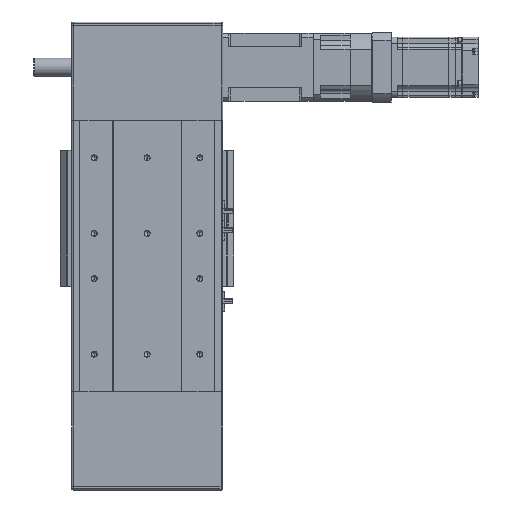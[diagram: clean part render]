
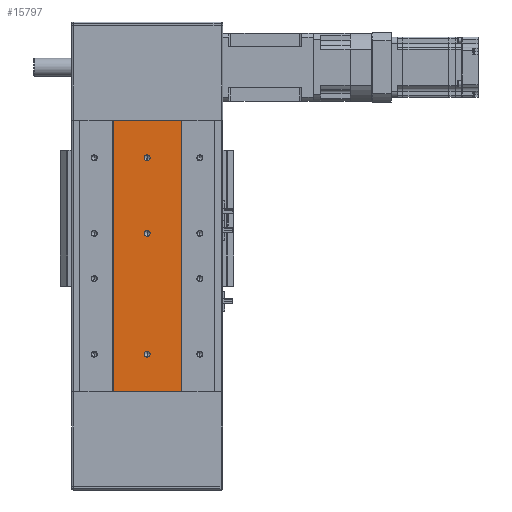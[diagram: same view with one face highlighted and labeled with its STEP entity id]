
A CAD part, front view. The second image highlights one B-rep face of the part: STEP entity #15797.
In plain terms, the highlighted planar face has unit normal (0, -1, 0).
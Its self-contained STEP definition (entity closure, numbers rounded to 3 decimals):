
#2208 = CARTESIAN_POINT ( 'NONE',  ( 45., -67., 180. ) ) ;
#2215 = DIRECTION ( 'NONE',  ( 0., 0., -1. ) ) ;
#2323 = DIRECTION ( 'NONE',  ( 0., 0., -1. ) ) ;
#2328 = DIRECTION ( 'NONE',  ( 0., -1., 0. ) ) ;
#2346 = CARTESIAN_POINT ( 'NONE',  ( 0., -67., 130. ) ) ;
#2357 = DIRECTION ( 'NONE',  ( 0., -1., 0. ) ) ;
#2363 = DIRECTION ( 'NONE',  ( 0., -1., 0. ) ) ;
#2372 = DIRECTION ( 'NONE',  ( 0., 0., -1. ) ) ;
#2396 = DIRECTION ( 'NONE',  ( 0., 0., -1. ) ) ;
#2408 = CARTESIAN_POINT ( 'NONE',  ( 0., -67., 30. ) ) ;
#2418 = CARTESIAN_POINT ( 'NONE',  ( 0., -67., -130. ) ) ;
#2622 = CARTESIAN_POINT ( 'NONE',  ( -45., -67., 180. ) ) ;
#2633 = DIRECTION ( 'NONE',  ( 0., 0., -1. ) ) ;
#2678 = CARTESIAN_POINT ( 'NONE',  ( 45., -67., -180. ) ) ;
#2684 = DIRECTION ( 'NONE',  ( 1., 0., 0. ) ) ;
#3518 = DIRECTION ( 'NONE',  ( 0., -1., 0. ) ) ;
#3522 = DIRECTION ( 'NONE',  ( 0., 0., -1. ) ) ;
#3533 = CARTESIAN_POINT ( 'NONE',  ( 0., -67., -130. ) ) ;
#3760 = CARTESIAN_POINT ( 'NONE',  ( 0., -67., 180. ) ) ;
#3844 = DIRECTION ( 'NONE',  ( 1., 0., 0. ) ) ;
#14953 = AXIS2_PLACEMENT_3D ( 'NONE', #2408, #2363, #2396 ) ;
#14975 = AXIS2_PLACEMENT_3D ( 'NONE', #2346, #2328, #2323 ) ;
#15009 = AXIS2_PLACEMENT_3D ( 'NONE', #2418, #2357, #2372 ) ;
#15797 = ADVANCED_FACE ( 'NONE', ( #58724, #58737, #58689, #58674 ), #24368, .F. ) ;
#19023 = CARTESIAN_POINT ( 'NONE',  ( 45., -67., 180. ) ) ;
#19128 = CARTESIAN_POINT ( 'NONE',  ( 45., -67., -180. ) ) ;
#19197 = CARTESIAN_POINT ( 'NONE',  ( -45., -67., -180. ) ) ;
#19666 = DIRECTION ( 'NONE',  ( 0., -1., 0. ) ) ;
#19668 = DIRECTION ( 'NONE',  ( 0., -1., 0. ) ) ;
#19696 = DIRECTION ( 'NONE',  ( 0., 0., -1. ) ) ;
#19710 = DIRECTION ( 'NONE',  ( 0., 0., -1. ) ) ;
#19726 = CARTESIAN_POINT ( 'NONE',  ( 0., -67., 130. ) ) ;
#19748 = CARTESIAN_POINT ( 'NONE',  ( 0., -67., 30. ) ) ;
#19797 = CARTESIAN_POINT ( 'NONE',  ( -45., -67., 180. ) ) ;
#20233 = CARTESIAN_POINT ( 'NONE',  ( 0., -67., 134. ) ) ;
#20235 = CARTESIAN_POINT ( 'NONE',  ( 0., -67., 26. ) ) ;
#20236 = CARTESIAN_POINT ( 'NONE',  ( 0., -67., 126. ) ) ;
#20274 = CARTESIAN_POINT ( 'NONE',  ( 0., -67., -126. ) ) ;
#20326 = CARTESIAN_POINT ( 'NONE',  ( 0., -67., 34. ) ) ;
#20361 = CARTESIAN_POINT ( 'NONE',  ( 0., -67., -134. ) ) ;
#20635 = VERTEX_POINT ( 'NONE', #20235 ) ;
#20650 = VERTEX_POINT ( 'NONE', #20233 ) ;
#20654 = VERTEX_POINT ( 'NONE', #20274 ) ;
#20677 = VERTEX_POINT ( 'NONE', #20326 ) ;
#20680 = VERTEX_POINT ( 'NONE', #20236 ) ;
#20699 = VERTEX_POINT ( 'NONE', #20361 ) ;
#20810 = VERTEX_POINT ( 'NONE', #19797 ) ;
#20949 = VERTEX_POINT ( 'NONE', #19023 ) ;
#21249 = VERTEX_POINT ( 'NONE', #19128 ) ;
#21299 = VERTEX_POINT ( 'NONE', #19197 ) ;
#21593 = CIRCLE ( 'NONE', #51987, 4. ) ;
#21606 = CIRCLE ( 'NONE', #51929, 4. ) ;
#21694 = CIRCLE ( 'NONE', #51942, 4. ) ;
#24349 = CARTESIAN_POINT ( 'NONE',  ( 45., -67., 180. ) ) ;
#24368 = PLANE ( 'NONE',  #50593 ) ;
#24377 = DIRECTION ( 'NONE',  ( 0., 0., 1. ) ) ;
#24381 = DIRECTION ( 'NONE',  ( 0., 1., 0. ) ) ;
#26361 = EDGE_CURVE ( 'NONE', #20650, #20680, #21593, .T. ) ;
#26369 = EDGE_CURVE ( 'NONE', #20677, #20635, #21606, .T. ) ;
#26393 = EDGE_CURVE ( 'NONE', #20654, #20699, #21694, .T. ) ;
#26511 = EDGE_CURVE ( 'NONE', #20810, #20949, #59469, .T. ) ;
#33818 = ORIENTED_EDGE ( 'NONE', *, *, #26511, .F. ) ;
#33838 = ORIENTED_EDGE ( 'NONE', *, *, #65601, .F. ) ;
#33864 = ORIENTED_EDGE ( 'NONE', *, *, #65192, .T. ) ;
#33872 = ORIENTED_EDGE ( 'NONE', *, *, #65576, .F. ) ;
#33890 = ORIENTED_EDGE ( 'NONE', *, *, #65761, .T. ) ;
#33908 = ORIENTED_EDGE ( 'NONE', *, *, #65456, .F. ) ;
#33910 = ORIENTED_EDGE ( 'NONE', *, *, #26369, .F. ) ;
#33926 = ORIENTED_EDGE ( 'NONE', *, *, #26361, .F. ) ;
#33980 = ORIENTED_EDGE ( 'NONE', *, *, #26393, .F. ) ;
#33988 = ORIENTED_EDGE ( 'NONE', *, *, #65529, .F. ) ;
#50593 = AXIS2_PLACEMENT_3D ( 'NONE', #24349, #24381, #24377 ) ;
#51929 = AXIS2_PLACEMENT_3D ( 'NONE', #19748, #19668, #19696 ) ;
#51942 = AXIS2_PLACEMENT_3D ( 'NONE', #3533, #3518, #3522 ) ;
#51987 = AXIS2_PLACEMENT_3D ( 'NONE', #19726, #19666, #19710 ) ;
#53024 = EDGE_LOOP ( 'NONE', ( #33838, #33910 ) ) ;
#53059 = EDGE_LOOP ( 'NONE', ( #33872, #33980 ) ) ;
#53097 = EDGE_LOOP ( 'NONE', ( #33864, #33908, #33818, #33890 ) ) ;
#53201 = EDGE_LOOP ( 'NONE', ( #33988, #33926 ) ) ;
#53919 = VECTOR ( 'NONE', #2215, 1000. ) ;
#53969 = LINE ( 'NONE', #2208, #53919 ) ;
#54014 = CIRCLE ( 'NONE', #14975, 4. ) ;
#54040 = CIRCLE ( 'NONE', #15009, 4. ) ;
#54086 = CIRCLE ( 'NONE', #14953, 4. ) ;
#54219 = LINE ( 'NONE', #2622, #54222 ) ;
#54222 = VECTOR ( 'NONE', #2633, 1000. ) ;
#55128 = LINE ( 'NONE', #2678, #55213 ) ;
#55213 = VECTOR ( 'NONE', #2684, 1000. ) ;
#58674 = FACE_OUTER_BOUND ( 'NONE', #53097, .T. ) ;
#58689 = FACE_BOUND ( 'NONE', #53059, .T. ) ;
#58724 = FACE_BOUND ( 'NONE', #53201, .T. ) ;
#58737 = FACE_BOUND ( 'NONE', #53024, .T. ) ;
#59469 = LINE ( 'NONE', #3760, #59503 ) ;
#59503 = VECTOR ( 'NONE', #3844, 1000. ) ;
#65192 = EDGE_CURVE ( 'NONE', #21299, #21249, #55128, .T. ) ;
#65456 = EDGE_CURVE ( 'NONE', #20949, #21249, #53969, .T. ) ;
#65529 = EDGE_CURVE ( 'NONE', #20680, #20650, #54014, .T. ) ;
#65576 = EDGE_CURVE ( 'NONE', #20699, #20654, #54040, .T. ) ;
#65601 = EDGE_CURVE ( 'NONE', #20635, #20677, #54086, .T. ) ;
#65761 = EDGE_CURVE ( 'NONE', #20810, #21299, #54219, .T. ) ;
